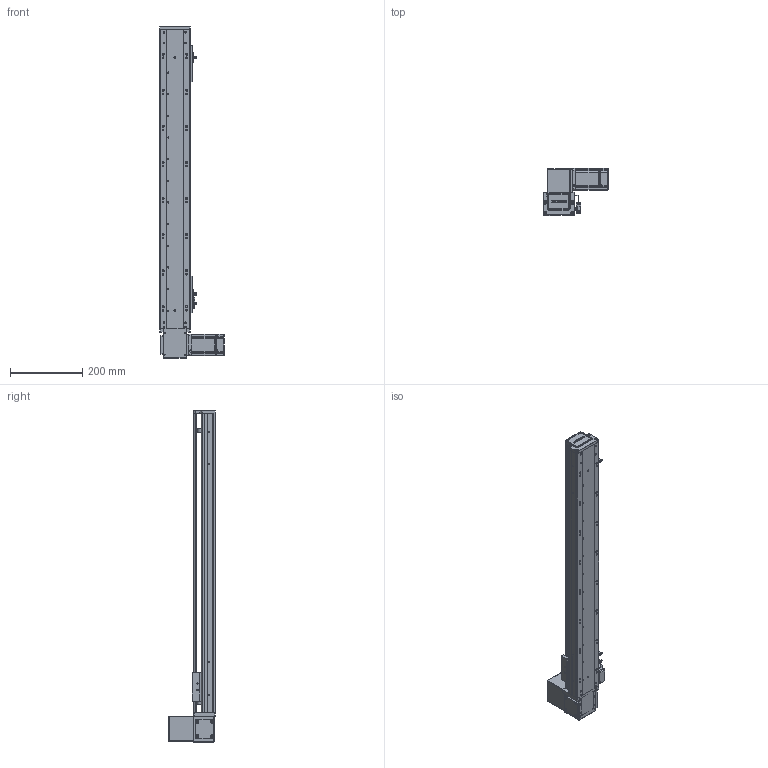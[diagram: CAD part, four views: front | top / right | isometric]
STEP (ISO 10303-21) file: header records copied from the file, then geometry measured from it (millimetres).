
FILE_DESCRIPTION (( 'STEP AP203' ), '1' );
FILE_NAME ('RY80-T-300-UR.SLDASM_650.step', '2021-03-01T02:26:09', ( '盈信电脑' ), ( '东莞市道滘镇水果街19号' ), 'SwSTEP 2.0', 'SolidWorks 2012', '' );
FILE_SCHEMA (( 'CONFIG_CONTROL_DESIGN' ));
Length unit declared in the file: millimetre
Products named in the file (20): RY80-T-300-UR.SLDASM_650; RY80-T肮祭謫奻殏俋欶; RY80-T萇儂假蚾啣; RY80-T-M4蹟翐2; RY80-T-上下折同步轮盖板; 1; RY100-T粣創揤踡裔; RY80-T翋肮祭謫裔啣; 滅袉蝶18-10; RY80-T肮祭湍揤輸2; RY80-T粣創揤踡輸; RY80-T肮祭湍揤輸1; 覜茼ん672; RY80-T-翋肮祭謫釱; RY80俋离覜茼え; 672嫖萇羲壽假蚾釱; RY80-T肮祭謫臏賑輸; RY80-T綴裔啣; RY80-T-300-UR倰第奻裔啣_650; RY80-T-300-UR倰第菁釱_650
Assembly tree (23 placements, depth 2):
  RY80-T-300-UR.SLDASM_650
    RY80-T-300-UR倰第菁釱_650
    RY80-T肮祭謫臏賑輸
    RY80-T-300-UR倰第奻裔啣_650
    RY80-T綴裔啣
    672嫖萇羲壽假蚾釱  x2
    覜茼ん672  x3
    RY80俋离覜茼え
    RY80-T-翋肮祭謫釱
    RY80-T肮祭湍揤輸1
    RY80-T肮祭湍揤輸2
    RY80-T粣創揤踡輸
    滅袉蝶18-10  x2
    RY100-T粣創揤踡裔
    RY80-T翋肮祭謫裔啣
    RY80-T-上下折同步轮盖板
    1
    RY80-T肮祭謫奻殏俋欶
    RY80-T-M4蹟翐2
    RY80-T萇儂假蚾啣
Bounding box: 180 x 130.5 x 920 mm (x, y, z)
Volume: 1734990.4 mm3; surface area: 712837.7 mm2
Topology: 23 solids, 23 shells, 2510 faces, 6924 edges, 4498 vertices
Faces by surface type: plane 1345, cylinder 967, cone 142, bspline 56
Entity records: 80476 total; most frequent: CARTESIAN_POINT 19690, ORIENTED_EDGE 12492, DIRECTION 11722, EDGE_CURVE 6246, VERTEX_POINT 4102, AXIS2_PLACEMENT_3D 3950, LINE 3822, VECTOR 3822
